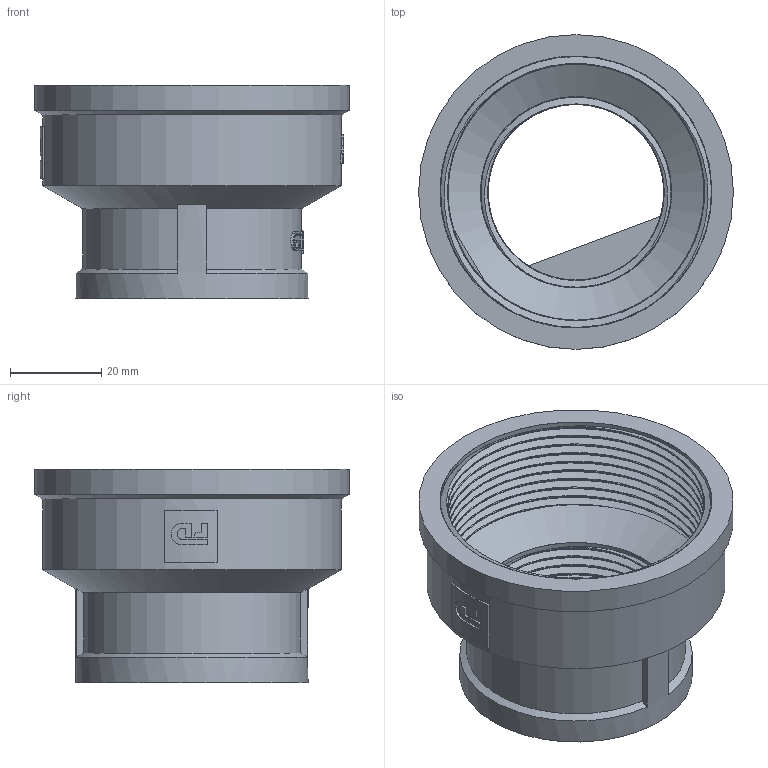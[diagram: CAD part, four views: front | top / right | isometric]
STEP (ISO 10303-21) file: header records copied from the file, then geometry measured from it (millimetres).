
FILE_DESCRIPTION(/* description */ (''),/* implementation_level */ '2;1');
FILE_NAME(/* name */ 'C:\Users\Doom\Desktop\Фадотех\Резьба\M21 17.03.2020\M21 17.03.2020.stp',/* time_stamp */ '2022-01-06T00:53:11+02:00',/* author */ ('Doom'),/* organization */ (''),/* preprocessor_version */ 'ST-DEVELOPER v18',/* originating_system */ 'Autodesk Inventor 2020',/* authorisation */ '');
FILE_SCHEMA (('AUTOMOTIVE_DESIGN { 1 0 10303 214 3 1 1 }'));
Length unit declared in the file: millimetre
Products named in the file (1): M21 17.03.2020
Bounding box: 69 x 69 x 46.8 mm (x, y, z)
Volume: 34722.4 mm3; surface area: 38953.5 mm2
Topology: 3 solids, 3 shells, 186 faces, 513 edges, 343 vertices
Faces by surface type: plane 95, cylinder 43, bspline 43, cone 5
Full cylindrical faces by diameter (mm): 38.476 x8, 41.9 x2, 51 x1, 56.176 x8, 59.6 x2, 65.5 x1, 69 x1
Entity records: 17281 total; most frequent: CARTESIAN_POINT 12781, ORIENTED_EDGE 1010, DIRECTION 798, EDGE_CURVE 505, VERTEX_POINT 339, AXIS2_PLACEMENT_3D 293, LINE 212, VECTOR 212
